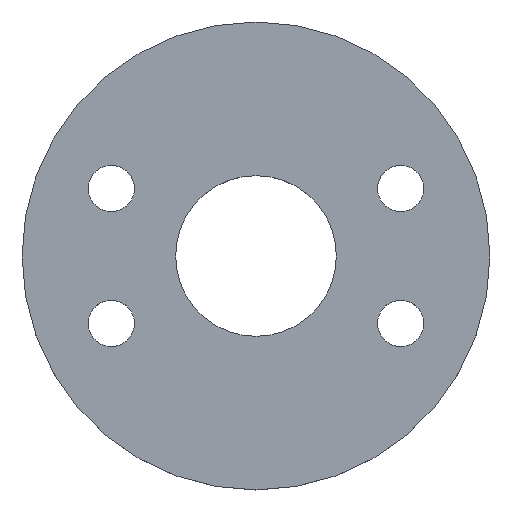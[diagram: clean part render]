
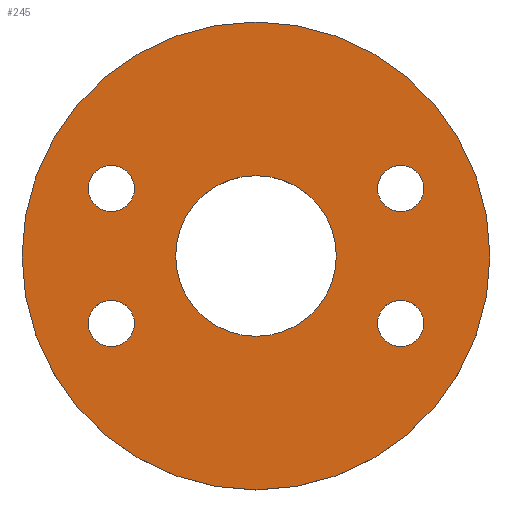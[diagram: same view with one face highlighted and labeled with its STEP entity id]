
A CAD part, top view. The second image highlights one B-rep face of the part: STEP entity #245.
In plain terms, the highlighted planar face has unit normal (0, 0, 1).
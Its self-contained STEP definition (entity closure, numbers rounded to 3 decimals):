
#5 = CARTESIAN_POINT ( 'NONE',  ( -60.551, -33.598, 7.5 ) ) ;
#7 = CARTESIAN_POINT ( 'NONE',  ( 60.551, 33.598, 7.5 ) ) ;
#19 = EDGE_CURVE ( 'NONE', #143, #262, #36, .T. ) ;
#23 = CARTESIAN_POINT ( 'NONE',  ( -72.051, 33.598, 7.5 ) ) ;
#32 = FACE_BOUND ( 'NONE', #264, .T. ) ;
#36 = CIRCLE ( 'NONE', #376, 116.5 ) ;
#46 = CIRCLE ( 'NONE', #430, 11.5 ) ;
#49 = CARTESIAN_POINT ( 'NONE',  ( 72.051, 33.598, 7.5 ) ) ;
#56 = CIRCLE ( 'NONE', #339, 40. ) ;
#58 = DIRECTION ( 'NONE',  ( 0., 0., 1. ) ) ;
#62 = VERTEX_POINT ( 'NONE', #91 ) ;
#63 = DIRECTION ( 'NONE',  ( 1., 0., 0. ) ) ;
#65 = VERTEX_POINT ( 'NONE', #141 ) ;
#68 = CARTESIAN_POINT ( 'NONE',  ( 0., 0., 7.5 ) ) ;
#72 = ORIENTED_EDGE ( 'NONE', *, *, #335, .F. ) ;
#73 = CARTESIAN_POINT ( 'NONE',  ( -83.551, 33.598, 7.5 ) ) ;
#82 = AXIS2_PLACEMENT_3D ( 'NONE', #49, #406, #446 ) ;
#84 = CIRCLE ( 'NONE', #541, 40. ) ;
#91 = CARTESIAN_POINT ( 'NONE',  ( -40., 0., 7.5 ) ) ;
#92 = EDGE_CURVE ( 'NONE', #65, #528, #467, .T. ) ;
#102 = AXIS2_PLACEMENT_3D ( 'NONE', #317, #508, #523 ) ;
#115 = CARTESIAN_POINT ( 'NONE',  ( -116.5, 0., 7.5 ) ) ;
#116 = EDGE_CURVE ( 'NONE', #542, #441, #118, .T. ) ;
#118 = CIRCLE ( 'NONE', #431, 11.5 ) ;
#119 = VERTEX_POINT ( 'NONE', #533 ) ;
#123 = EDGE_CURVE ( 'NONE', #62, #251, #56, .T. ) ;
#125 = CIRCLE ( 'NONE', #296, 11.5 ) ;
#139 = FACE_OUTER_BOUND ( 'NONE', #176, .T. ) ;
#141 = CARTESIAN_POINT ( 'NONE',  ( 83.551, -33.598, 7.5 ) ) ;
#143 = VERTEX_POINT ( 'NONE', #115 ) ;
#146 = AXIS2_PLACEMENT_3D ( 'NONE', #209, #247, #276 ) ;
#153 = DIRECTION ( 'NONE',  ( 0., 0., 1. ) ) ;
#162 = EDGE_CURVE ( 'NONE', #441, #542, #125, .T. ) ;
#164 = DIRECTION ( 'NONE',  ( 1., 0., 0. ) ) ;
#166 = DIRECTION ( 'NONE',  ( 0., 0., 1. ) ) ;
#168 = ORIENTED_EDGE ( 'NONE', *, *, #200, .T. ) ;
#175 = AXIS2_PLACEMENT_3D ( 'NONE', #68, #509, #436 ) ;
#176 = EDGE_LOOP ( 'NONE', ( #428, #168 ) ) ;
#177 = EDGE_LOOP ( 'NONE', ( #229, #386 ) ) ;
#181 = CARTESIAN_POINT ( 'NONE',  ( 60.551, -33.598, 7.5 ) ) ;
#196 = EDGE_LOOP ( 'NONE', ( #462, #359 ) ) ;
#200 = EDGE_CURVE ( 'NONE', #262, #143, #294, .T. ) ;
#204 = DIRECTION ( 'NONE',  ( 0., 0., 1. ) ) ;
#208 = CARTESIAN_POINT ( 'NONE',  ( -72.051, -33.598, 7.5 ) ) ;
#209 = CARTESIAN_POINT ( 'NONE',  ( 72.051, -33.598, 7.5 ) ) ;
#214 = EDGE_CURVE ( 'NONE', #297, #119, #293, .T. ) ;
#218 = CARTESIAN_POINT ( 'NONE',  ( 0., 0., 7.5 ) ) ;
#224 = CARTESIAN_POINT ( 'NONE',  ( -72.051, 33.598, 7.5 ) ) ;
#229 = ORIENTED_EDGE ( 'NONE', *, *, #116, .F. ) ;
#232 = DIRECTION ( 'NONE',  ( 0., 0., 1. ) ) ;
#236 = CARTESIAN_POINT ( 'NONE',  ( 72.051, -33.598, 7.5 ) ) ;
#237 = DIRECTION ( 'NONE',  ( -1., 0., 0. ) ) ;
#240 = AXIS2_PLACEMENT_3D ( 'NONE', #23, #283, #481 ) ;
#245 = ADVANCED_FACE ( 'NONE', ( #260, #537, #32, #440, #139, #289 ), #365, .T. ) ;
#247 = DIRECTION ( 'NONE',  ( 0., 0., 1. ) ) ;
#251 = VERTEX_POINT ( 'NONE', #408 ) ;
#253 = CIRCLE ( 'NONE', #146, 11.5 ) ;
#259 = DIRECTION ( 'NONE',  ( 0., 0., 1. ) ) ;
#260 = FACE_BOUND ( 'NONE', #196, .T. ) ;
#262 = VERTEX_POINT ( 'NONE', #271 ) ;
#264 = EDGE_LOOP ( 'NONE', ( #497, #470 ) ) ;
#268 = AXIS2_PLACEMENT_3D ( 'NONE', #290, #393, #449 ) ;
#271 = CARTESIAN_POINT ( 'NONE',  ( 116.5, 0., 7.5 ) ) ;
#276 = DIRECTION ( 'NONE',  ( -1., 0., 0. ) ) ;
#283 = DIRECTION ( 'NONE',  ( 0., 0., 1. ) ) ;
#289 = FACE_BOUND ( 'NONE', #433, .T. ) ;
#290 = CARTESIAN_POINT ( 'NONE',  ( 0., 0., 7.5 ) ) ;
#292 = DIRECTION ( 'NONE',  ( 1., 0., 0. ) ) ;
#293 = CIRCLE ( 'NONE', #240, 11.5 ) ;
#294 = CIRCLE ( 'NONE', #268, 116.5 ) ;
#296 = AXIS2_PLACEMENT_3D ( 'NONE', #485, #204, #454 ) ;
#297 = VERTEX_POINT ( 'NONE', #73 ) ;
#311 = EDGE_CURVE ( 'NONE', #528, #65, #253, .T. ) ;
#317 = CARTESIAN_POINT ( 'NONE',  ( 72.051, 33.598, 7.5 ) ) ;
#328 = CARTESIAN_POINT ( 'NONE',  ( 0., 0., 7.5 ) ) ;
#335 = EDGE_CURVE ( 'NONE', #404, #538, #371, .T. ) ;
#339 = AXIS2_PLACEMENT_3D ( 'NONE', #328, #58, #63 ) ;
#344 = CARTESIAN_POINT ( 'NONE',  ( 83.551, 33.598, 7.5 ) ) ;
#354 = EDGE_CURVE ( 'NONE', #538, #404, #463, .T. ) ;
#359 = ORIENTED_EDGE ( 'NONE', *, *, #214, .F. ) ;
#365 = PLANE ( 'NONE',  #175 ) ;
#371 = CIRCLE ( 'NONE', #82, 11.5 ) ;
#376 = AXIS2_PLACEMENT_3D ( 'NONE', #218, #259, #292 ) ;
#386 = ORIENTED_EDGE ( 'NONE', *, *, #162, .F. ) ;
#393 = DIRECTION ( 'NONE',  ( 0., 0., 1. ) ) ;
#402 = CARTESIAN_POINT ( 'NONE',  ( -83.551, -33.598, 7.5 ) ) ;
#404 = VERTEX_POINT ( 'NONE', #344 ) ;
#406 = DIRECTION ( 'NONE',  ( 0., 0., 1. ) ) ;
#408 = CARTESIAN_POINT ( 'NONE',  ( 40., 0., 7.5 ) ) ;
#418 = EDGE_CURVE ( 'NONE', #251, #62, #84, .T. ) ;
#421 = EDGE_LOOP ( 'NONE', ( #72, #512 ) ) ;
#423 = ORIENTED_EDGE ( 'NONE', *, *, #123, .F. ) ;
#428 = ORIENTED_EDGE ( 'NONE', *, *, #19, .T. ) ;
#430 = AXIS2_PLACEMENT_3D ( 'NONE', #224, #232, #237 ) ;
#431 = AXIS2_PLACEMENT_3D ( 'NONE', #208, #455, #164 ) ;
#433 = EDGE_LOOP ( 'NONE', ( #423, #491 ) ) ;
#436 = DIRECTION ( 'NONE',  ( 1., 0., 0. ) ) ;
#440 = FACE_BOUND ( 'NONE', #421, .T. ) ;
#441 = VERTEX_POINT ( 'NONE', #402 ) ;
#446 = DIRECTION ( 'NONE',  ( 1., 0., 0. ) ) ;
#449 = DIRECTION ( 'NONE',  ( 1., 0., 0. ) ) ;
#454 = DIRECTION ( 'NONE',  ( 1., 0., 0. ) ) ;
#455 = DIRECTION ( 'NONE',  ( 0., 0., 1. ) ) ;
#462 = ORIENTED_EDGE ( 'NONE', *, *, #540, .F. ) ;
#463 = CIRCLE ( 'NONE', #102, 11.5 ) ;
#466 = DIRECTION ( 'NONE',  ( 1., 0., 0. ) ) ;
#467 = CIRCLE ( 'NONE', #483, 11.5 ) ;
#470 = ORIENTED_EDGE ( 'NONE', *, *, #311, .F. ) ;
#476 = DIRECTION ( 'NONE',  ( -1., 0., 0. ) ) ;
#481 = DIRECTION ( 'NONE',  ( -1., 0., 0. ) ) ;
#482 = CARTESIAN_POINT ( 'NONE',  ( 0., 0., 7.5 ) ) ;
#483 = AXIS2_PLACEMENT_3D ( 'NONE', #236, #153, #476 ) ;
#485 = CARTESIAN_POINT ( 'NONE',  ( -72.051, -33.598, 7.5 ) ) ;
#491 = ORIENTED_EDGE ( 'NONE', *, *, #418, .F. ) ;
#497 = ORIENTED_EDGE ( 'NONE', *, *, #92, .F. ) ;
#508 = DIRECTION ( 'NONE',  ( 0., 0., 1. ) ) ;
#509 = DIRECTION ( 'NONE',  ( 0., 0., 1. ) ) ;
#512 = ORIENTED_EDGE ( 'NONE', *, *, #354, .F. ) ;
#523 = DIRECTION ( 'NONE',  ( 1., 0., 0. ) ) ;
#528 = VERTEX_POINT ( 'NONE', #181 ) ;
#533 = CARTESIAN_POINT ( 'NONE',  ( -60.551, 33.598, 7.5 ) ) ;
#537 = FACE_BOUND ( 'NONE', #177, .T. ) ;
#538 = VERTEX_POINT ( 'NONE', #7 ) ;
#540 = EDGE_CURVE ( 'NONE', #119, #297, #46, .T. ) ;
#541 = AXIS2_PLACEMENT_3D ( 'NONE', #482, #166, #466 ) ;
#542 = VERTEX_POINT ( 'NONE', #5 ) ;
